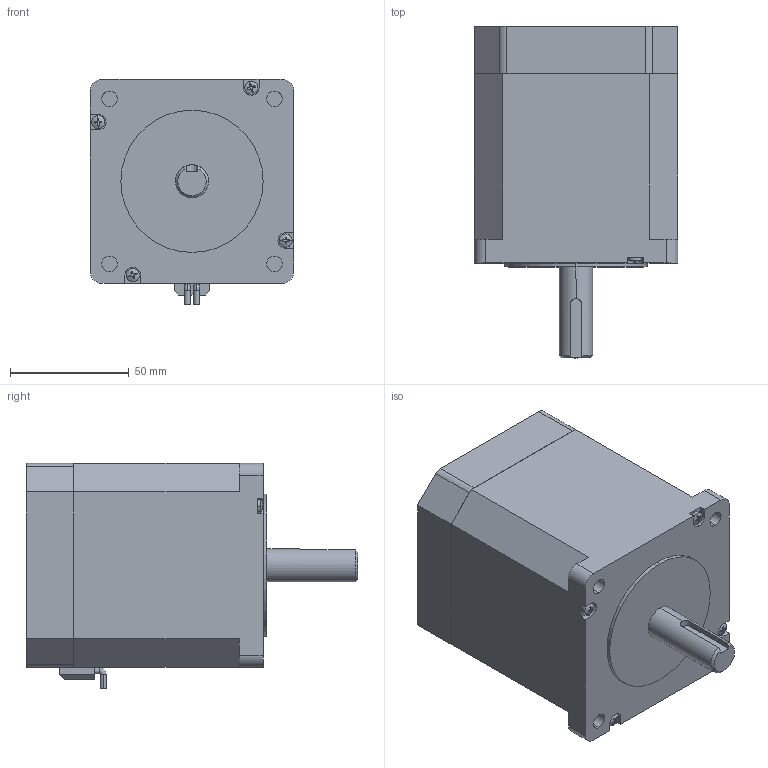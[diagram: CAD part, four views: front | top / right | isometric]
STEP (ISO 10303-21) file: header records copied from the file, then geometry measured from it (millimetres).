
FILE_DESCRIPTION (( 'STEP AP203' ), '1' );
FILE_NAME ('86BG40-EC 贝格达、前盖60、DB15、前径14长40键5-25厚11、电缆线0.5m.STEP', '2024-10-13T14:24:36', ( '' ), ( '' ), 'SwSTEP 2.0', 'SolidWorks 2022', '' );
FILE_SCHEMA (( 'CONFIG_CONTROL_DESIGN' ));
Length unit declared in the file: millimetre
Products named in the file (1): 86BG40-EC   贝格达、前盖60、DB15、前径14长40键5-25厚11、电缆线0.5m
Bounding box: 86 x 140 x 95 mm (x, y, z)
Volume: 723267.1 mm3; surface area: 64875 mm2
Topology: 6 solids, 6 shells, 195 faces, 505 edges, 334 vertices
Faces by surface type: plane 116, cylinder 66, sphere 8, torus 4, cone 1
Entity records: 6156 total; most frequent: CARTESIAN_POINT 1225, DIRECTION 1049, ORIENTED_EDGE 1010, EDGE_CURVE 505, AXIS2_PLACEMENT_3D 392, VERTEX_POINT 334, LINE 265, VECTOR 265
